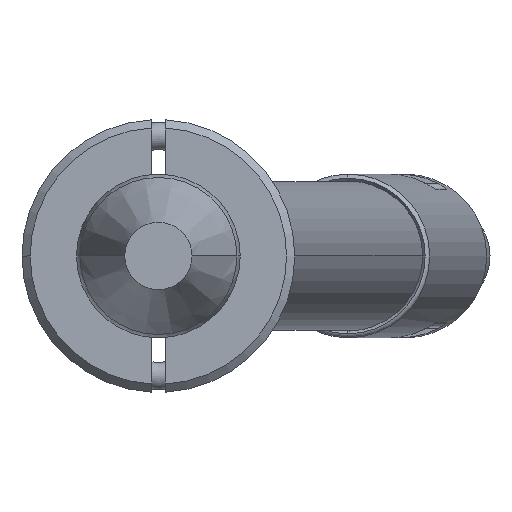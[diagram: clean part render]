
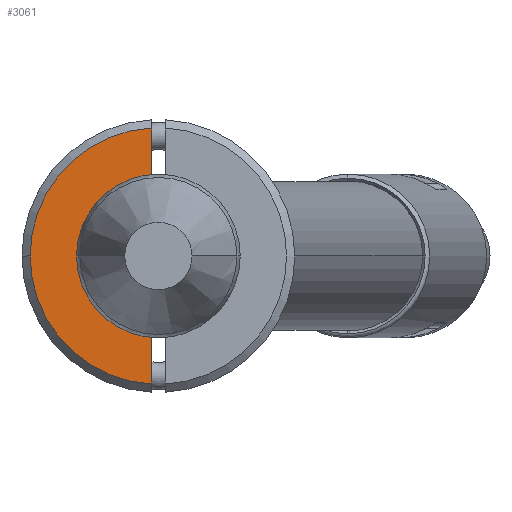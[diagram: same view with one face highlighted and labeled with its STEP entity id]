
A CAD part, front view. The second image highlights one B-rep face of the part: STEP entity #3061.
In plain terms, the highlighted planar face has unit normal (0, -1, 0).
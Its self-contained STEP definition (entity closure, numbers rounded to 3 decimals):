
#62 = EDGE_CURVE ( 'NONE', #1897, #912, #2895, .T. ) ;
#155 = EDGE_CURVE ( 'NONE', #1273, #636, #3442, .T. ) ;
#206 = DIRECTION ( 'NONE',  ( 0., 1., 0. ) ) ;
#355 = CIRCLE ( 'NONE', #1388, 4.7 ) ;
#415 = VECTOR ( 'NONE', #672, 1000. ) ;
#441 = DIRECTION ( 'NONE',  ( 0., 0., -1. ) ) ;
#445 = CARTESIAN_POINT ( 'NONE',  ( -4.693, -6., 0.25 ) ) ;
#460 = DIRECTION ( 'NONE',  ( -1., 0., 0. ) ) ;
#547 = AXIS2_PLACEMENT_3D ( 'NONE', #717, #3091, #441 ) ;
#636 = VERTEX_POINT ( 'NONE', #2031 ) ;
#672 = DIRECTION ( 'NONE',  ( -1., 0., 0. ) ) ;
#683 = EDGE_LOOP ( 'NONE', ( #2800, #3471, #2565, #1338, #3235 ) ) ;
#687 = LINE ( 'NONE', #1342, #415 ) ;
#717 = CARTESIAN_POINT ( 'NONE',  ( 0., -6., 0. ) ) ;
#755 = CARTESIAN_POINT ( 'NONE',  ( 4.693, -6., 0.25 ) ) ;
#912 = VERTEX_POINT ( 'NONE', #445 ) ;
#991 = EDGE_CURVE ( 'NONE', #1273, #912, #687, .T. ) ;
#1060 = EDGE_CURVE ( 'NONE', #2518, #1897, #355, .T. ) ;
#1273 = VERTEX_POINT ( 'NONE', #3400 ) ;
#1305 = DIRECTION ( 'NONE',  ( 0., -1., 0. ) ) ;
#1338 = ORIENTED_EDGE ( 'NONE', *, *, #991, .F. ) ;
#1342 = CARTESIAN_POINT ( 'NONE',  ( -5., -6., 0.25 ) ) ;
#1388 = AXIS2_PLACEMENT_3D ( 'NONE', #2192, #1305, #2497 ) ;
#1391 = AXIS2_PLACEMENT_3D ( 'NONE', #3518, #206, #2910 ) ;
#1396 = CARTESIAN_POINT ( 'NONE',  ( -5., -6., 0.25 ) ) ;
#1547 = DIRECTION ( 'NONE',  ( 0., -1., 0. ) ) ;
#1746 = AXIS2_PLACEMENT_3D ( 'NONE', #3650, #1547, #2397 ) ;
#1779 = VECTOR ( 'NONE', #460, 1000. ) ;
#1897 = VERTEX_POINT ( 'NONE', #2822 ) ;
#2031 = CARTESIAN_POINT ( 'NONE',  ( 2.437, -6., 0.25 ) ) ;
#2192 = CARTESIAN_POINT ( 'NONE',  ( 0., -6., 0. ) ) ;
#2397 = DIRECTION ( 'NONE',  ( 0., 0., -1. ) ) ;
#2474 = PLANE ( 'NONE',  #1746 ) ;
#2497 = DIRECTION ( 'NONE',  ( 0., 0., -1. ) ) ;
#2518 = VERTEX_POINT ( 'NONE', #755 ) ;
#2565 = ORIENTED_EDGE ( 'NONE', *, *, #62, .T. ) ;
#2800 = ORIENTED_EDGE ( 'NONE', *, *, #3637, .F. ) ;
#2822 = CARTESIAN_POINT ( 'NONE',  ( 0., -6., 4.7 ) ) ;
#2895 = CIRCLE ( 'NONE', #547, 4.7 ) ;
#2910 = DIRECTION ( 'NONE',  ( 0., 0., -1. ) ) ;
#3061 = ADVANCED_FACE ( 'NONE', ( #3358 ), #2474, .T. ) ;
#3091 = DIRECTION ( 'NONE',  ( 0., -1., 0. ) ) ;
#3235 = ORIENTED_EDGE ( 'NONE', *, *, #155, .T. ) ;
#3358 = FACE_OUTER_BOUND ( 'NONE', #683, .T. ) ;
#3400 = CARTESIAN_POINT ( 'NONE',  ( -2.437, -6., 0.25 ) ) ;
#3442 = CIRCLE ( 'NONE', #1391, 2.45 ) ;
#3471 = ORIENTED_EDGE ( 'NONE', *, *, #1060, .T. ) ;
#3518 = CARTESIAN_POINT ( 'NONE',  ( 0., -6., 0. ) ) ;
#3637 = EDGE_CURVE ( 'NONE', #2518, #636, #3707, .T. ) ;
#3650 = CARTESIAN_POINT ( 'NONE',  ( -5., -6., 0. ) ) ;
#3707 = LINE ( 'NONE', #1396, #1779 ) ;
